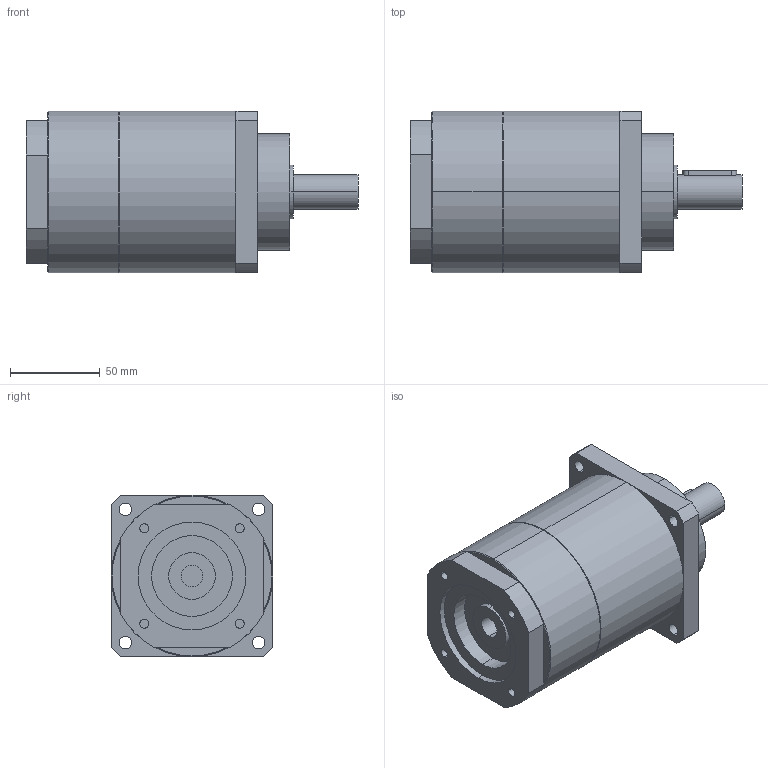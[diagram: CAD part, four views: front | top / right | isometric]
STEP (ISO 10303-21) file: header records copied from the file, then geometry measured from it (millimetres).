
FILE_DESCRIPTION(('CoCreate Modeling STEP Export'),'2;1');
FILE_NAME('GPT90_ig-9-12-16-20-25-28-35-40-50-70-100_19_B5T_12_P23.stp','2015-02-04T11:28:40',(''),(''),'CoCreate Modeling STEP processor for AP214 (Solid Model)','CoCreate Modeling 16.00C 25-Feb-2009 (C) Parametric Technology GmbH','');
FILE_SCHEMA(('AUTOMOTIVE_DESIGN { 1 0 10303 214 1 1 1 1 }'));
Length unit declared in the file: millimetre
Products named in the file (2): GPT90_ig-9-12-16-20-25-28-35-40-50-70-100_19_B5T_12_P23
Assembly tree (1 placements, depth 2):
  GPT90_ig-9-12-16-20-25-28-35-40-50-70-100_19_B5T_12_P23
    GPT90_ig-9-12-16-20-25-28-35-40-50-70-100_19_B5T_12_P23
Bounding box: 185 x 90 x 90 mm (x, y, z)
Volume: 876913.1 mm3; surface area: 64930.8 mm2
Topology: 1 solids, 1 shells, 88 faces, 222 edges, 149 vertices
Faces by surface type: cylinder 46, plane 38, cone 4
Entity records: 2704 total; most frequent: CARTESIAN_POINT 755, ORIENTED_EDGE 444, DIRECTION 330, EDGE_CURVE 222, VERTEX_POINT 149, AXIS2_PLACEMENT_3D 121, EDGE_LOOP 109, VECTOR 88
